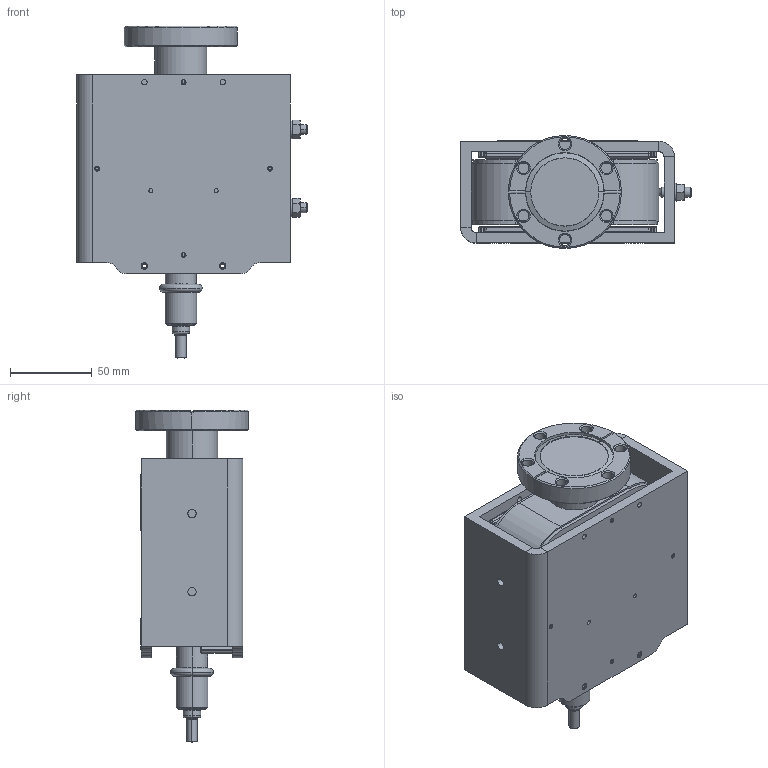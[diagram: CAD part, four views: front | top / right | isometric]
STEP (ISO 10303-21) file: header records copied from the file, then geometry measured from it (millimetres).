
FILE_DESCRIPTION((''),'2;1');
FILE_NAME('ASM0004_SW0001','2008-08-18T',('gollab'),('Gamma Vacuum, LLC'),'PRO/ENGINEER BY PARAMETRIC TECHNOLOGY CORPORATION, 2006080','PRO/ENGINEER BY PARAMETRIC TECHNOLOGY CORPORATION, 2006080','');
FILE_SCHEMA(('CONFIG_CONTROL_DESIGN'));
Length unit declared in the file: millimetre
Products named in the file (1): ASM0004_SW0001
Bounding box: 141.35 x 69.34 x 203.6 mm (x, y, z)
Volume: 483541.8 mm3; surface area: 197741.8 mm2
Topology: 6 solids, 7 shells, 640 faces, 1582 edges, 997 vertices
Faces by surface type: plane 260, cylinder 215, cone 93, torus 56, sphere 16
Entity records: 23704 total; most frequent: CARTESIAN_POINT 8276, DIRECTION 3257, ORIENTED_EDGE 3160, EDGE_CURVE 1580, AXIS2_PLACEMENT_3D 1227, VERTEX_POINT 997, VECTOR 803, LINE 803
